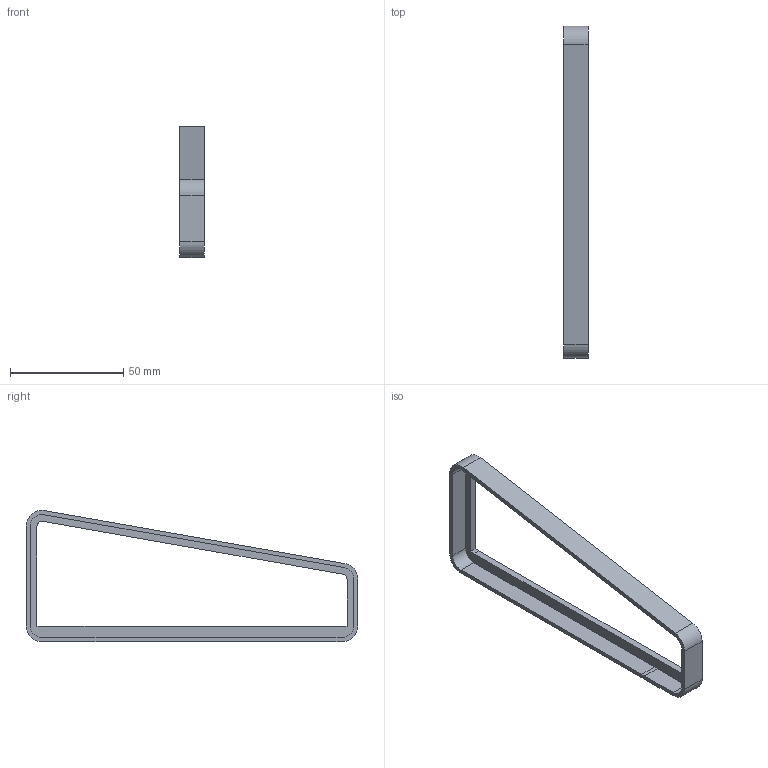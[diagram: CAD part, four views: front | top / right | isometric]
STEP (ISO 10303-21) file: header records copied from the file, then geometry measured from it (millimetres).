
FILE_DESCRIPTION(/* description */ (''),/* implementation_level */ '2;1');
FILE_NAME(/* name */ 'side_panel_glue_template_left_v0.1.step',/* time_stamp */ '2026-08-26T16:34:59+01:00',/* author */ (''),/* organization */ (''),/* preprocessor_version */ 'ST-DEVELOPER v20.1',/* originating_system */ 'Autodesk Translation Framework v15.8.0.0',/* authorisation */ '');
FILE_SCHEMA (('AUTOMOTIVE_DESIGN { 1 0 10303 214 3 1 1 }'));
Length unit declared in the file: millimetre
Products named in the file (1): wood_template_left
Bounding box: 11 x 146.8 x 58.04 mm (x, y, z)
Volume: 11355.6 mm3; surface area: 12103.7 mm2
Topology: 1 solids, 1 shells, 36 faces, 100 edges, 67 vertices
Faces by surface type: plane 26, cylinder 10
Entity records: 1189 total; most frequent: CARTESIAN_POINT 204, ORIENTED_EDGE 200, DIRECTION 194, EDGE_CURVE 100, LINE 80, VECTOR 80, VERTEX_POINT 67, AXIS2_PLACEMENT_3D 57
